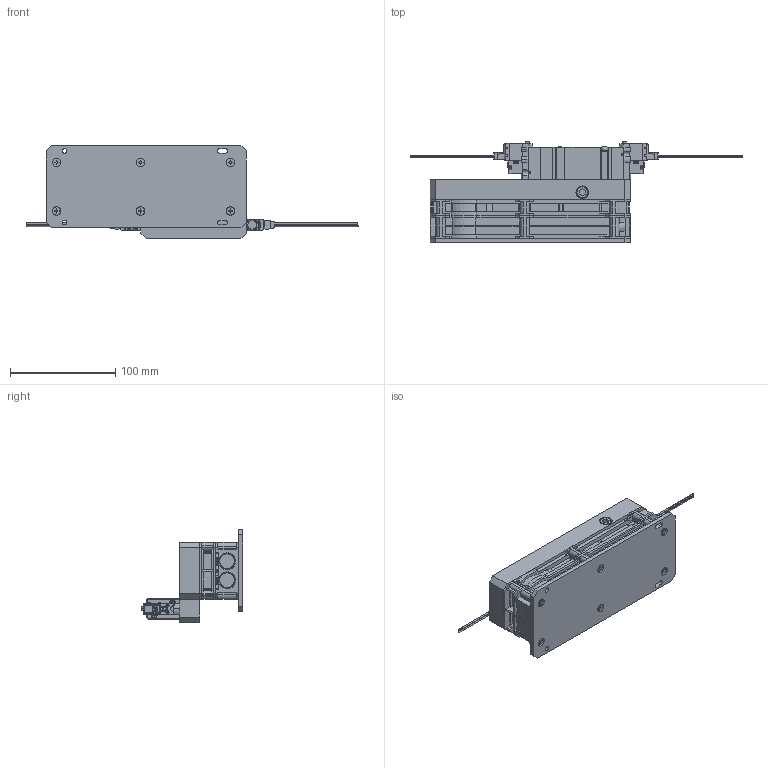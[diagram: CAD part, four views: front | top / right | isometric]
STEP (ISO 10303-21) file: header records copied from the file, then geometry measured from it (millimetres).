
FILE_DESCRIPTION(('STEP AP203'),'1');
FILE_NAME('BCVZ-1,2-ZZN-V_3D.stp','2024-08-30T09:22:09',(' '),(' '),'Spatial InterOp 3D',' ',' ');
FILE_SCHEMA(('CONFIG_CONTROL_DESIGN'));
Length unit declared in the file: millimetre
Products named in the file (21): BCVZ-1,2-ZZN-V; BCVZ-1,2-V-Z 공급베이스; CZS-U2_unit; CVZ-U1_unit; BCVZ-B_base; NAUO3; NAUO7; NAUO8; NAUO9; BCVZ-1,2-V 밸브; NAUO6; NAUO4; NAUO5; PG2_____; NONE; 볼트
Assembly tree (24 placements, depth 4):
  BCVZ-1,2-ZZN-V
    BCVZ-1,2-V-Z 공급베이스
    CZS-U2_unit
    CVZ-U1_unit
    BCVZ-B_base
    BCVZ-1,2-V 밸브
      NAUO3  x2
        NAUO7
        NAUO8
        NAUO9
      NAUO6
      NAUO4
      NAUO5  x2
      PG2_____
        NONE  x2
        NONE
      볼트
      볼트
      PG2_____
        NONE  x2
        NONE
Bounding box: 315.2 x 96.7 x 88 mm (x, y, z)
Volume: 620104.5 mm3; surface area: 165348.5 mm2
Topology: 22 solids, 24 shells, 2106 faces, 5773 edges, 3804 vertices
Faces by surface type: plane 1438, cylinder 592, torus 46, cone 28, bspline 2
Full cylindrical faces by diameter (mm): 3.3 x2, 4 x2, 4.5 x2, 6.7 x2, 8 x9, 8.56 x1, 11.676 x1, 12 x2
Entity records: 55413 total; most frequent: CARTESIAN_POINT 10208, ORIENTED_EDGE 9294, DIRECTION 9100, EDGE_CURVE 4647, LINE 3432, VECTOR 3432, VERTEX_POINT 3095, AXIS2_PLACEMENT_3D 2834
